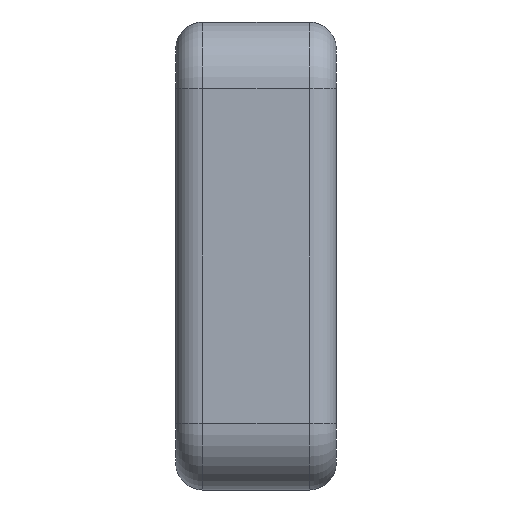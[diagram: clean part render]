
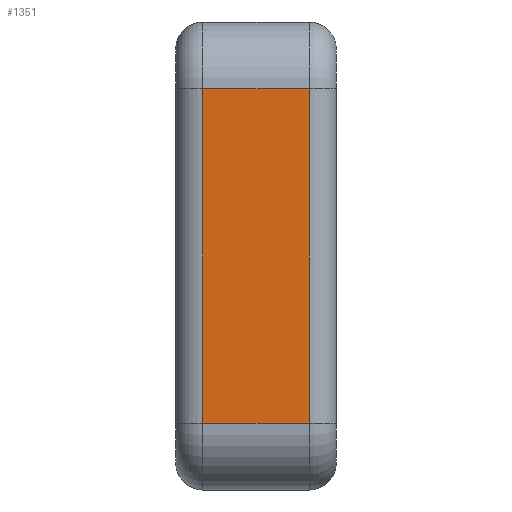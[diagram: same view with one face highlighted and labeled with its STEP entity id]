
A CAD part, left-side view. The second image highlights one B-rep face of the part: STEP entity #1351.
In plain terms, the highlighted planar face has unit normal (-1, 0, 0).
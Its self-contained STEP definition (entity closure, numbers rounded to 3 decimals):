
#42 = DIRECTION ( 'NONE',  ( 0., 0., -1. ) ) ;
#45 = VERTEX_POINT ( 'NONE', #1619 ) ;
#88 = PLANE ( 'NONE',  #1575 ) ;
#201 = LINE ( 'NONE', #726, #514 ) ;
#237 = ORIENTED_EDGE ( 'NONE', *, *, #745, .T. ) ;
#253 = CARTESIAN_POINT ( 'NONE',  ( -75., 2., 12.5 ) ) ;
#266 = LINE ( 'NONE', #1477, #612 ) ;
#337 = CARTESIAN_POINT ( 'NONE',  ( -75., 2., -12.5 ) ) ;
#403 = EDGE_CURVE ( 'NONE', #45, #562, #747, .T. ) ;
#410 = VECTOR ( 'NONE', #42, 1000. ) ;
#442 = ORIENTED_EDGE ( 'NONE', *, *, #403, .T. ) ;
#487 = DIRECTION ( 'NONE',  ( 0., 0., -1. ) ) ;
#514 = VECTOR ( 'NONE', #849, 1000. ) ;
#562 = VERTEX_POINT ( 'NONE', #600 ) ;
#577 = EDGE_CURVE ( 'NONE', #1490, #45, #201, .T. ) ;
#600 = CARTESIAN_POINT ( 'NONE',  ( -75., 10., -12.5 ) ) ;
#612 = VECTOR ( 'NONE', #731, 1000. ) ;
#618 = DIRECTION ( 'NONE',  ( 0., -1., 0. ) ) ;
#721 = VERTEX_POINT ( 'NONE', #337 ) ;
#726 = CARTESIAN_POINT ( 'NONE',  ( -75., 12., 12.5 ) ) ;
#731 = DIRECTION ( 'NONE',  ( 0., 0., 1. ) ) ;
#733 = CARTESIAN_POINT ( 'NONE',  ( -75., 12., 17.5 ) ) ;
#745 = EDGE_CURVE ( 'NONE', #721, #1490, #266, .T. ) ;
#747 = LINE ( 'NONE', #1567, #410 ) ;
#821 = VECTOR ( 'NONE', #618, 1000. ) ;
#825 = EDGE_CURVE ( 'NONE', #562, #721, #1486, .T. ) ;
#849 = DIRECTION ( 'NONE',  ( 0., 1., 0. ) ) ;
#1072 = EDGE_LOOP ( 'NONE', ( #1439, #237, #1535, #442 ) ) ;
#1227 = DIRECTION ( 'NONE',  ( 1., 0., 0. ) ) ;
#1230 = CARTESIAN_POINT ( 'NONE',  ( -75., 12., -12.5 ) ) ;
#1351 = ADVANCED_FACE ( 'NONE', ( #1360 ), #88, .F. ) ;
#1360 = FACE_OUTER_BOUND ( 'NONE', #1072, .T. ) ;
#1439 = ORIENTED_EDGE ( 'NONE', *, *, #825, .T. ) ;
#1477 = CARTESIAN_POINT ( 'NONE',  ( -75., 2., 12.5 ) ) ;
#1486 = LINE ( 'NONE', #1230, #821 ) ;
#1490 = VERTEX_POINT ( 'NONE', #253 ) ;
#1535 = ORIENTED_EDGE ( 'NONE', *, *, #577, .T. ) ;
#1567 = CARTESIAN_POINT ( 'NONE',  ( -75., 10., 17.5 ) ) ;
#1575 = AXIS2_PLACEMENT_3D ( 'NONE', #733, #1227, #487 ) ;
#1619 = CARTESIAN_POINT ( 'NONE',  ( -75., 10., 12.5 ) ) ;
